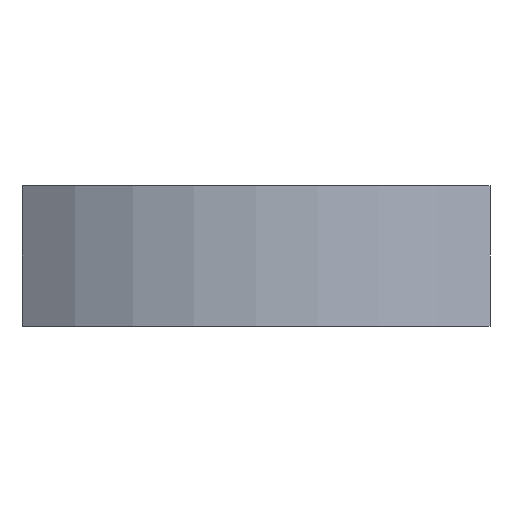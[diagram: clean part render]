
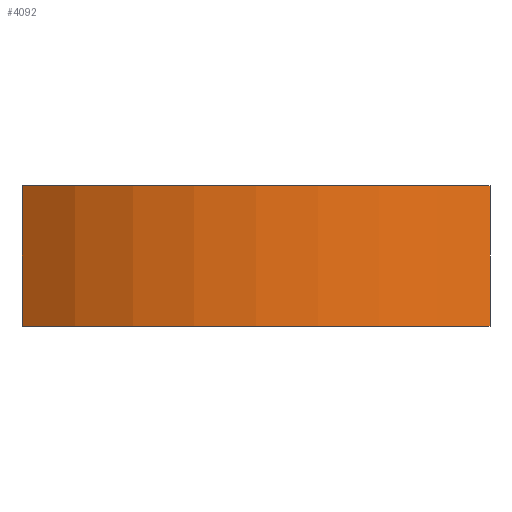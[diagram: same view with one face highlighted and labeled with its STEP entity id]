
A CAD part, left-side view. The second image highlights one B-rep face of the part: STEP entity #4092.
In plain terms, the highlighted cylindrical face has radius 25 mm (diameter 50 mm), a partial arc.
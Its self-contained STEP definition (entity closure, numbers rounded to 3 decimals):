
#18=CYLINDRICAL_SURFACE('',#4247,25.);
#156=CIRCLE('',#4224,25.);
#166=CIRCLE('',#4248,25.);
#388=FACE_OUTER_BOUND('',#638,.T.);
#638=EDGE_LOOP('',(#3732,#3733,#3734,#3735));
#1006=LINE('',#7504,#1371);
#1008=LINE('',#7508,#1373);
#1371=VECTOR('',#4871,10.);
#1373=VECTOR('',#4875,10.);
#1969=VERTEX_POINT('',#7463);
#1970=VERTEX_POINT('',#7465);
#1979=VERTEX_POINT('',#7503);
#1980=VERTEX_POINT('',#7507);
#2551=EDGE_CURVE('',#1970,#1969,#156,.T.);
#2567=EDGE_CURVE('',#1979,#1970,#1006,.T.);
#2569=EDGE_CURVE('',#1980,#1969,#1008,.T.);
#2570=EDGE_CURVE('',#1979,#1980,#166,.T.);
#3732=ORIENTED_EDGE('',*,*,#2551,.T.);
#3733=ORIENTED_EDGE('',*,*,#2569,.F.);
#3734=ORIENTED_EDGE('',*,*,#2570,.F.);
#3735=ORIENTED_EDGE('',*,*,#2567,.T.);
#4092=ADVANCED_FACE('',(#388),#18,.T.);
#4224=AXIS2_PLACEMENT_3D('',#7466,#4819,#4820);
#4247=AXIS2_PLACEMENT_3D('',#7506,#4873,#4874);
#4248=AXIS2_PLACEMENT_3D('',#7509,#4876,#4877);
#4819=DIRECTION('center_axis',(0.,0.,-1.));
#4820=DIRECTION('ref_axis',(0.8,-0.6,0.));
#4871=DIRECTION('',(0.,0.,1.));
#4873=DIRECTION('center_axis',(0.,0.,1.));
#4874=DIRECTION('ref_axis',(0.8,-0.6,0.));
#4875=DIRECTION('',(0.,0.,1.));
#4876=DIRECTION('center_axis',(0.,0.,-1.));
#4877=DIRECTION('ref_axis',(0.8,-0.6,0.));
#7463=CARTESIAN_POINT('',(-20.,15.,9.));
#7465=CARTESIAN_POINT('',(-20.,-15.,9.));
#7466=CARTESIAN_POINT('Origin',(0.,0.,9.));
#7503=CARTESIAN_POINT('',(-20.,-15.,0.));
#7504=CARTESIAN_POINT('',(-20.,-15.,0.));
#7506=CARTESIAN_POINT('Origin',(0.,0.,0.));
#7507=CARTESIAN_POINT('',(-20.,15.,0.));
#7508=CARTESIAN_POINT('',(-20.,15.,0.));
#7509=CARTESIAN_POINT('Origin',(0.,0.,0.));
